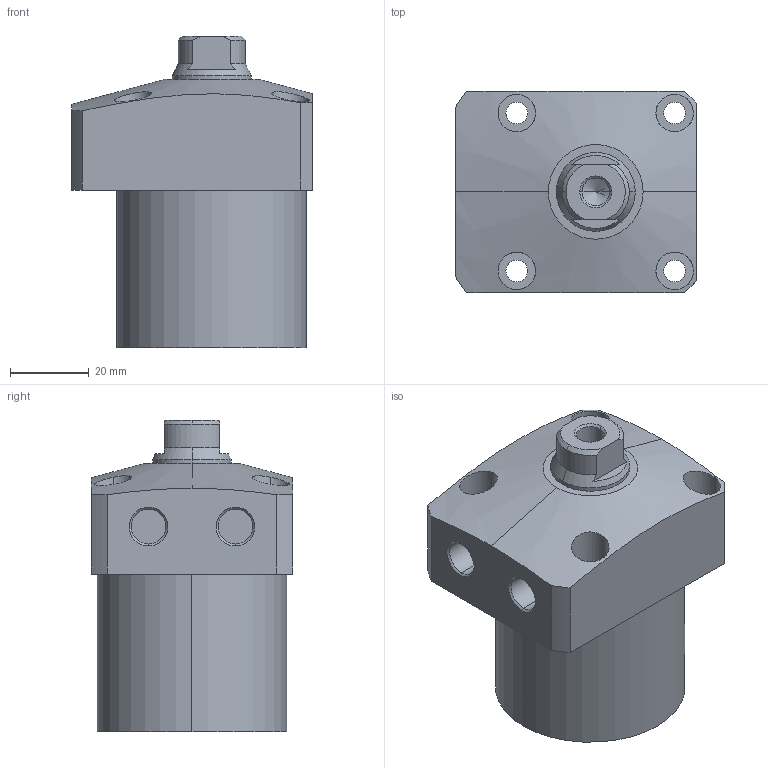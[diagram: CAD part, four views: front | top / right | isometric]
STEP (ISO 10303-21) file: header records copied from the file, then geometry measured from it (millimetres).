
FILE_DESCRIPTION (( 'STEP AP203' ), '1' );
FILE_NAME ('CLL-0480-CA-30.STEP', '2017-05-09T02:22:10', ( '' ), ( '' ), 'SwSTEP 2.0', 'SolidWorks 2015', '' );
FILE_SCHEMA (( 'CONFIG_CONTROL_DESIGN' ));
Length unit declared in the file: millimetre
Products named in the file (1): CLL-0480-CA-30
Bounding box: 61 x 51 x 79 mm (x, y, z)
Volume: 146987.1 mm3; surface area: 20596.7 mm2
Topology: 1 solids, 1 shells, 72 faces, 169 edges, 108 vertices
Faces by surface type: cylinder 35, plane 22, cone 15
Entity records: 2479 total; most frequent: CARTESIAN_POINT 714, DIRECTION 366, ORIENTED_EDGE 334, EDGE_CURVE 167, AXIS2_PLACEMENT_3D 150, VERTEX_POINT 108, EDGE_LOOP 91, CIRCLE 77
